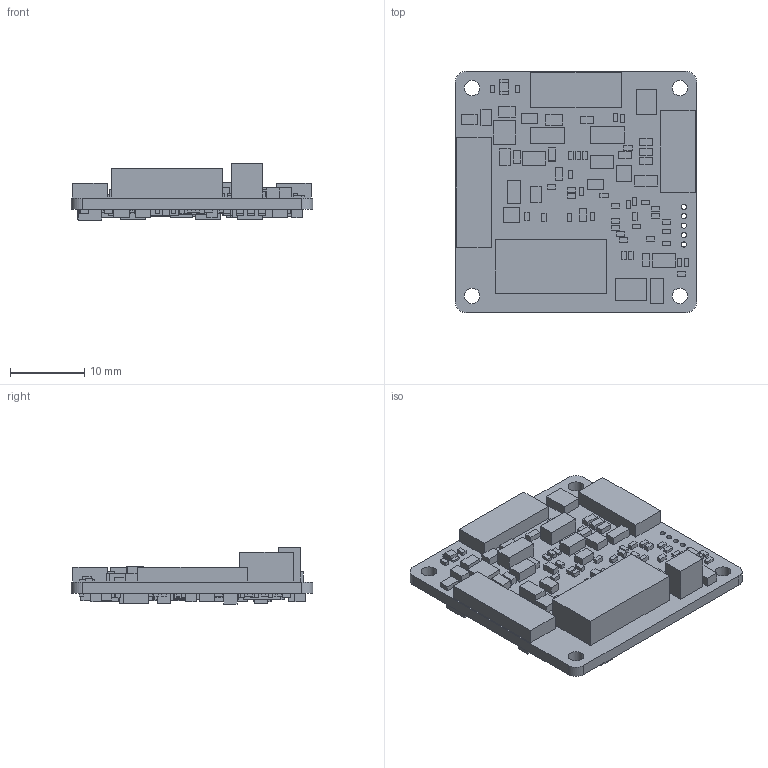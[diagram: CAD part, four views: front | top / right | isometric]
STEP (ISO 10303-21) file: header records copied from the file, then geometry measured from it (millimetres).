
FILE_DESCRIPTION(('Open CASCADE Model'),'2;1');
FILE_NAME('Open CASCADE Shape Model','2025-01-10T18:54:41',('Author'),( 'Open CASCADE'),'Open CASCADE STEP processor 7.5','Open CASCADE 7.5' ,'Unknown');
FILE_SCHEMA(('AUTOMOTIVE_DESIGN { 1 0 10303 214 1 1 1 1 }'));
Length unit declared in the file: millimetre
Products named in the file (277): PCB; Board; Open CASCADE STEP translator 7.5 3.1.1; F4; 7651434528; Extruded; F3; F2; R53; 6777240848; R52; Q8; 7651434208; R51; R50; R49; R37; C48; 6777237168; R36; 6777240288; C35; R21; 6777241168; R19; Q7; 7651435728; F1; D10; 7651435488; D5; U12; 9956336592; R48; C61; X1; 9976294128; U103; 6777236928; U102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
Assembly tree (434 placements, depth 4):
  PCB
    Board
      Open CASCADE STEP translator 7.5 3.1.1
    F4
      7651434528
        Extruded
    F3
      7651434528
        Extruded
    F2
      7651434528
        Extruded
    R53
      6777240848
        Extruded
    R52
      6777240848
        Extruded
    Q8
      7651434208
        Extruded
    R51
      6777240848
        Extruded
    R50
      6777240848
        Extruded
    R49
      6777240848
        Extruded
    R37
      6777240848
        Extruded
    C48
      6777237168
        Extruded
    R36
      6777240288
        Extruded
    C35
      6777240288
        Extruded
    R21
      6777241168
        Extruded
    R19
      6777240848
        Extruded
    Q7
      7651435728
        Extruded
    F1
      7651434528
        Extruded
    D10
      7651435488
        Extruded
    D5
      7651435488
        Extruded
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Bounding box: 32.5 x 32.5 x 7.58 mm (x, y, z)
Volume: 2886.7 mm3; surface area: 5182.6 mm2
Topology: 198 solids, 198 shells, 1207 faces, 2433 edges, 1622 vertices
Faces by surface type: plane 1194, cylinder 13
Full cylindrical faces by diameter (mm): 0.7 x5, 2.1 x4
Entity records: 13306 total; most frequent: DIRECTION 1946, CARTESIAN_POINT 1583, ORIENTED_EDGE 1068, AXIS2_PLACEMENT_3D 719, PRODUCT_DEFINITION_SHAPE 711, EDGE_CURVE 534, LINE 508, VECTOR 508
